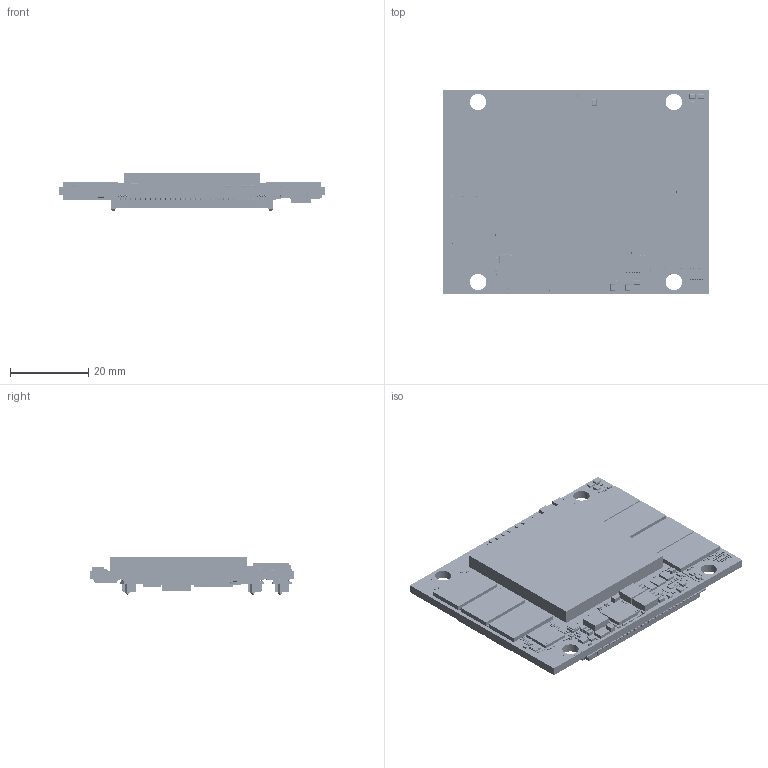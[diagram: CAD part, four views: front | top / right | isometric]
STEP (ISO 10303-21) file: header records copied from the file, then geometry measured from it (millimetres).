
FILE_DESCRIPTION(('Open CASCADE Model'),'2;1');
FILE_NAME('Open CASCADE Shape Model','2023-05-08T10:42:08',('Author'),( 'Open CASCADE'),'Open CASCADE STEP processor 7.5','Open CASCADE 7.5' ,'Unknown');
FILE_SCHEMA(('AUTOMOTIVE_DESIGN { 1 0 10303 214 1 1 1 1 }'));
Length unit declared in the file: millimetre
Products named in the file (1007): --
Assembly tree (1824 placements, depth 4):
  --
    --
      --
    --
      --
        --
    --
      --
        --
    --
      --
        --
    --
      --
    --
      --
    --
      --
    --
      --
        --
      --
        --
    --
      --
    --
      --
    --
      --
    --
      --
    --
      --
    --
      --
    --
      --
    --
      --
    --
      --
    --
      --
    --
      --
    --
      --
    --
      --
    --
      --
    --
      --
    --
      --
    --
      --
        --
    --
      --
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Bounding box: 68 x 52 x 9.69 mm (x, y, z)
Volume: 15626.9 mm3; surface area: 21730.3 mm2
Topology: 1410 solids, 1410 shells, 32378 faces, 77882 edges, 44672 vertices
Faces by surface type: plane 16848, cylinder 10736, sphere 3972, extrusion 430, bspline 384, torus 8
Full cylindrical faces by diameter (mm): 0.2 x6, 0.3 x19, 0.4 x15, 0.8 x10, 1 x6, 4.2 x12
Entity records: 172183 total; most frequent: CARTESIAN_POINT 30012, DIRECTION 23235, ORIENTED_EDGE 21760, EDGE_CURVE 10880, AXIS2_PLACEMENT_3D 7796, VECTOR 7643, LINE 7438, VERTEX_POINT 7120
